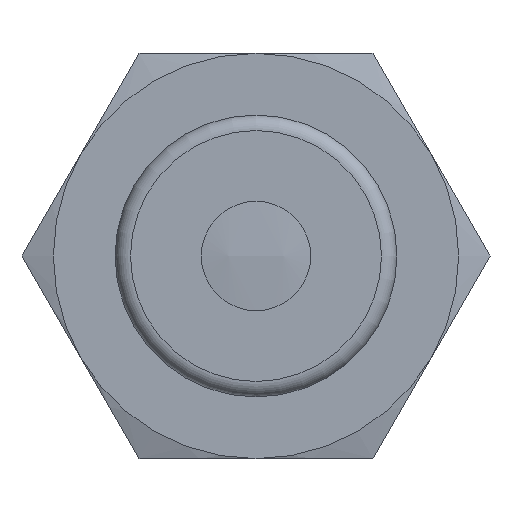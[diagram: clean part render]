
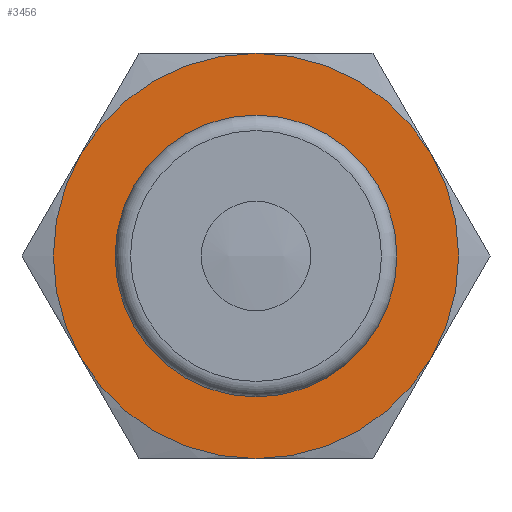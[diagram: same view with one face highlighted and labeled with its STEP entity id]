
A CAD part, left-side view. The second image highlights one B-rep face of the part: STEP entity #3456.
In plain terms, the highlighted planar face has unit normal (-1, 0, 0).
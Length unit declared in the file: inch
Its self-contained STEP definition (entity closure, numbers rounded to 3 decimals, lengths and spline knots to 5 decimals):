
#2819=CARTESIAN_POINT('',(-0.63,0.565,0.));
#2820=VERTEX_POINT('',#2819);
#2821=CARTESIAN_POINT('',(-0.63,0.0,0.));
#2822=DIRECTION('',(1.0,0.0,0.0));
#2823=DIRECTION('',(0.0,1.0,0.0));
#2824=AXIS2_PLACEMENT_3D('',#2821,#2822,#2823);
#2825=CIRCLE('',#2824,0.565);
#2826=EDGE_CURVE('',#2820,#2820,#2825,.T.);
#2862=CARTESIAN_POINT('',(-0.63,0.70365,0.40625));
#2863=VERTEX_POINT('',#2862);
#2944=CARTESIAN_POINT('',(-0.63,0.70365,-0.40625));
#2945=VERTEX_POINT('',#2944);
#3008=CARTESIAN_POINT('',(-0.63,0.0,0.8125));
#3009=VERTEX_POINT('',#3008);
#3103=CARTESIAN_POINT('',(-0.63,0.0,-0.8125));
#3104=VERTEX_POINT('',#3103);
#3176=CARTESIAN_POINT('',(-0.63,-0.70365,-0.40625));
#3177=VERTEX_POINT('',#3176);
#3240=CARTESIAN_POINT('',(-0.63,-0.70365,0.40625));
#3241=VERTEX_POINT('',#3240);
#3278=CARTESIAN_POINT('',(-0.63,0.0,0.));
#3279=DIRECTION('',(-1.0,0.0,0.0));
#3280=DIRECTION('',(0.0,0.0,1.0));
#3281=AXIS2_PLACEMENT_3D('',#3278,#3279,#3280);
#3282=CIRCLE('',#3281,0.8125);
#3283=EDGE_CURVE('',#2945,#3104,#3282,.T.);
#3295=CARTESIAN_POINT('',(-0.63,0.0,0.));
#3296=DIRECTION('',(-1.0,0.0,0.0));
#3297=DIRECTION('',(0.0,0.0,1.0));
#3298=AXIS2_PLACEMENT_3D('',#3295,#3296,#3297);
#3299=CIRCLE('',#3298,0.8125);
#3300=EDGE_CURVE('',#3104,#3177,#3299,.T.);
#3312=CARTESIAN_POINT('',(-0.63,0.0,0.));
#3313=DIRECTION('',(-1.0,0.0,0.0));
#3314=DIRECTION('',(0.0,0.0,1.0));
#3315=AXIS2_PLACEMENT_3D('',#3312,#3313,#3314);
#3316=CIRCLE('',#3315,0.8125);
#3317=EDGE_CURVE('',#3177,#3241,#3316,.T.);
#3330=CARTESIAN_POINT('',(-0.63,0.0,0.));
#3331=DIRECTION('',(-1.0,0.0,0.0));
#3332=DIRECTION('',(0.0,0.0,1.0));
#3333=AXIS2_PLACEMENT_3D('',#3330,#3331,#3332);
#3334=CIRCLE('',#3333,0.8125);
#3335=EDGE_CURVE('',#3241,#3009,#3334,.T.);
#3347=CARTESIAN_POINT('',(-0.63,0.0,0.));
#3348=DIRECTION('',(-1.0,0.0,0.0));
#3349=DIRECTION('',(0.0,0.0,1.0));
#3350=AXIS2_PLACEMENT_3D('',#3347,#3348,#3349);
#3351=CIRCLE('',#3350,0.8125);
#3352=EDGE_CURVE('',#3009,#2863,#3351,.T.);
#3364=CARTESIAN_POINT('',(-0.63,0.0,0.));
#3365=DIRECTION('',(-1.0,0.0,0.0));
#3366=DIRECTION('',(0.0,0.0,1.0));
#3367=AXIS2_PLACEMENT_3D('',#3364,#3365,#3366);
#3368=CIRCLE('',#3367,0.8125);
#3369=EDGE_CURVE('',#2863,#2945,#3368,.T.);
#3440=CARTESIAN_POINT('',(-0.63,0.,0.));
#3441=DIRECTION('',(-1.0,0.0,0.0));
#3442=DIRECTION('',(0.0,0.0,1.0));
#3443=AXIS2_PLACEMENT_3D('',#3440,#3441,#3442);
#3444=PLANE('',#3443);
#3445=ORIENTED_EDGE('',*,*,#3283,.T.);
#3446=ORIENTED_EDGE('',*,*,#3300,.T.);
#3447=ORIENTED_EDGE('',*,*,#3317,.T.);
#3448=ORIENTED_EDGE('',*,*,#3335,.T.);
#3449=ORIENTED_EDGE('',*,*,#3352,.T.);
#3450=ORIENTED_EDGE('',*,*,#3369,.T.);
#3451=EDGE_LOOP('',(#3445,#3446,#3447,#3448,#3449,#3450));
#3452=FACE_OUTER_BOUND('',#3451,.T.);
#3453=ORIENTED_EDGE('',*,*,#2826,.T.);
#3454=EDGE_LOOP('',(#3453));
#3455=FACE_BOUND('',#3454,.T.);
#3456=ADVANCED_FACE('',(#3452,#3455),#3444,.T.);
